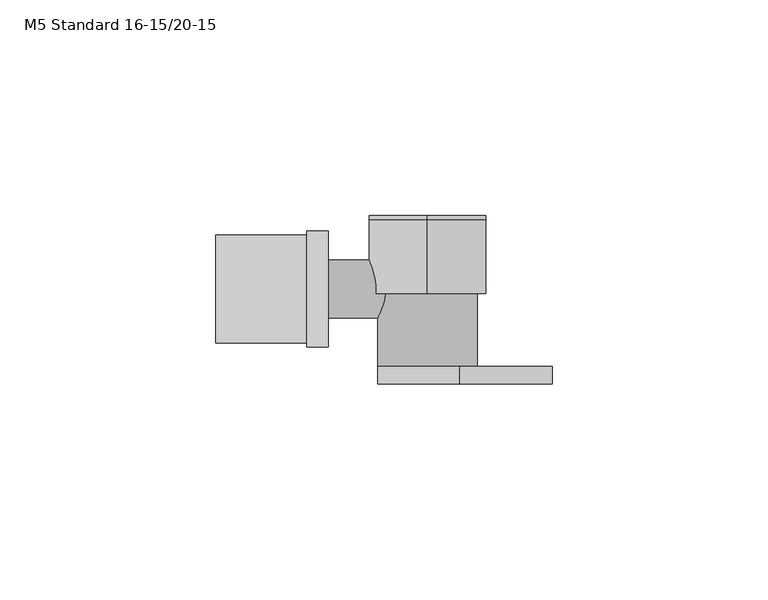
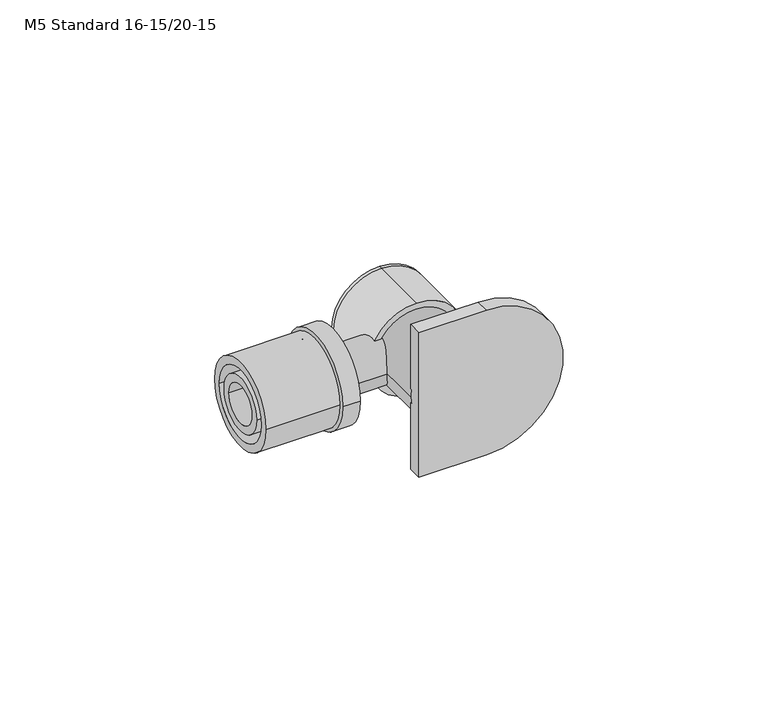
"""IFC4 building model written with IfcOpenShell, lengths in millimetres: pipe fitting geometry, PIF_Tigris_Wall_Flange_Elbow_M-K_FMT_Wavin_(nested) : M5 Standard 16-15/20-15."""

from ifc_helpers import new_model, si_unit, point, frame, origin, origin_2d, place, context, project, spatial, circle_curve, trimmed, segment, composite_curve, outline, extrude, source, transform, mapped, element, save
from ifc_brep_helpers import plane_surface, cylinder_surface, advanced_brep


def m5_standard_16_15_20_15_51ee50e7(model_context):
    return source(origin(), model_context, "Body", "SolidModel", [
        advanced_brep(
        [(11.5, 0.0, 0.0), (-11.5, 0.0, 0.0), (7.5, -22.0, -21.5), (7.5, -22.0, 21.5), (-11.5, -22.0, 21.5), (-11.5, -22.0, -21.5), (-11.5, -18.0, 0.0), (11.5, -18.0, 0.0), (7.5, -18.0, -21.5), (-11.5, -18.0, -21.5), (-11.5, -18.0, 21.5), (7.5, -18.0, 21.5)],
        [
            (0, 1, circle_curve(frame((0.0, 0.0, 0.0), z_axis=(0.0, 1.0, 0.0), x_axis=(-1.0000000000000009, 0.0, 0.0)), 11.5)),
            (1, 0, circle_curve(frame((0.0, 0.0, 0.0), z_axis=(0.0, 1.0, 0.0), x_axis=(-1.0000000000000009, 0.0, 0.0)), 11.5)),
            (2, 3, circle_curve(frame((7.5, -22.0, 0.0), z_axis=(0.0, -1.0, 0.0), x_axis=(0.0, 0.0, 1.0000000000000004)), 21.5)),
            (3, 4),
            (4, 5),
            (5, 2),
            (1, 6),
            (6, 7, circle_curve(frame((0.0, -18.0, 0.0), z_axis=(0.0, 1.0, 0.0), x_axis=(-1.0000000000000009, 0.0, 0.0)), 11.5)),
            (7, 0),
            (7, 6, circle_curve(frame((0.0, -18.0, 0.0), z_axis=(0.0, 1.0, 0.0), x_axis=(-1.0000000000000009, 0.0, 0.0)), 11.5)),
            (8, 9),
            (9, 6),
            (6, 10),
            (10, 11),
            (11, 8, circle_curve(frame((7.5, -18.0, 0.0), z_axis=(0.0, 1.0, 0.0), x_axis=(0.0, 0.0, 1.0000000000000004)), 21.5)),
            (11, 3),
            (2, 8),
            (5, 9),
            (4, 10),
        ],
        [
            plane_surface(frame((0.0, 0.0, 0.0), z_axis=(0.0, 1.0, 0.0), x_axis=(0.0, 0.0, 1.0))),
            plane_surface(frame((0.0, -22.0, 0.0), z_axis=(0.0, -1.0, 0.0), x_axis=(0.0, 0.0, 1.0))),
            cylinder_surface(frame((0.0, 0.0, 0.0), z_axis=(0.0, 1.0000000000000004, 0.0), x_axis=(-1.0000000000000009, 0.0, 0.0)), 11.5),
            plane_surface(frame((-11.5, -18.0, -21.5), z_axis=(0.0, 1.0, 0.0), x_axis=(1.0, 0.0, 0.0))),
            cylinder_surface(frame((7.5, -18.0, 0.0), z_axis=(0.0, -1.0000000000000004, 0.0), x_axis=(0.0, 0.0, 1.0000000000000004)), 21.5),
            plane_surface(frame((7.5, -22.0, -21.5), z_axis=(0.0, 0.0, -1.0), x_axis=(0.0, 1.0, 0.0))),
            plane_surface(frame((-11.5, -22.0, -21.5), z_axis=(-1.0, 0.0, 0.0), x_axis=(0.0, 1.0, 0.0))),
            plane_surface(frame((-11.5, -22.0, 21.5), z_axis=(0.0, 0.0, 1.0), x_axis=(0.0, 1.0, 0.0))),
        ],
        [
            (0, [[1, 2]]),
            (1, [[3, 4, 5, 6]]),
            (2, [[7, 8, 9, -2]]),
            (2, [[-9, 10, -7, -1]]),
            (3, [[11, 12, -10, -8, 13, 14, 15]]),
            (4, [[16, -3, 17, -15]]),
            (5, [[-17, -6, 18, -11]]),
            (6, [[19, -13, -12, -18, -5]]),
            (7, [[-19, -4, -16, -14]]),
        ],
    ),
        extrude(outline(composite_curve([segment(trimmed(circle_curve(origin_2d(), 13.5), [point((-13.5, 0.0))], [point((13.5, 0.0))], False, "CARTESIAN"), True, "CONTINUOUS"), segment(trimmed(circle_curve(origin_2d(), 13.5), [point((13.5, 0.0))], [point((-13.5, 0.0))], False, "CARTESIAN"), True, "CONTINUOUS")], self_intersect=False)), frame((0.0, -1.0, 0.0), z_axis=(0.0, 1.0, 0.0), x_axis=(0.0, 0.0, 1.0)), (0.0, 0.0, 1.0), 17.0),
        extrude(outline(composite_curve([segment(trimmed(circle_curve(origin_2d(), 13.5), [point((-13.5, 0.0))], [point((13.5, 0.0))], False, "CARTESIAN"), True, "CONTINUOUS"), segment(trimmed(circle_curve(origin_2d(), 13.5), [point((13.5, 0.0))], [point((-13.5, 0.0))], False, "CARTESIAN"), True, "CONTINUOUS")], self_intersect=False)), frame((0.0, 16.0, 0.0), z_axis=(0.0, 1.0, 0.0), x_axis=(0.0, 0.0, 1.0)), (0.0, 0.0, 1.0), 1.0),
        extrude(outline(composite_curve([segment(trimmed(circle_curve(origin_2d(), 13.45), [point((-13.45, 0.0))], [point((13.45, 0.0))], False, "CARTESIAN"), True, "CONTINUOUS"), segment(trimmed(circle_curve(origin_2d(), 13.45), [point((13.45, 0.0))], [point((-13.45, 0.0))], False, "CARTESIAN"), True, "CONTINUOUS")], self_intersect=False)), frame((-28.0, 0.0, 0.0), z_axis=(1.0, 0.0, 0.0), x_axis=(0.0, 1.0, 0.0)), (0.0, 0.0, 1.0), 5.0),
        extrude(outline(composite_curve([segment(trimmed(circle_curve(origin_2d(), 12.5), [point((-12.5, 0.0))], [point((12.5, 0.0))], False, "CARTESIAN"), True, "CONTINUOUS"), segment(trimmed(circle_curve(origin_2d(), 12.5), [point((12.5, 0.0))], [point((-12.5, 0.0))], False, "CARTESIAN"), True, "CONTINUOUS")], self_intersect=False), holes=[composite_curve([segment(trimmed(circle_curve(origin_2d(), 10.2), [point((-10.2, 0.0))], [point((10.2, 0.0))], True, "CARTESIAN"), True, "CONTINUOUS"), segment(trimmed(circle_curve(origin_2d(), 10.2), [point((10.2, 0.0))], [point((-10.2, 0.0))], True, "CARTESIAN"), True, "CONTINUOUS")], self_intersect=False)]), frame((-49.0, 0.0, 0.0), z_axis=(1.0, 0.0, 0.0), x_axis=(0.0, 1.0, 0.0)), (0.0, 0.0, 1.0), 21.0),
        extrude(outline(composite_curve([segment(trimmed(circle_curve(origin_2d(), 7.9), [point((-7.9, 0.0))], [point((7.9, 0.0))], False, "CARTESIAN"), True, "CONTINUOUS"), segment(trimmed(circle_curve(origin_2d(), 7.9), [point((7.9, 0.0))], [point((-7.9, 0.0))], False, "CARTESIAN"), True, "CONTINUOUS")], self_intersect=False), holes=[composite_curve([segment(trimmed(circle_curve(origin_2d(), 5.6), [point((-5.6, 0.0))], [point((5.6, 0.0))], True, "CARTESIAN"), True, "CONTINUOUS"), segment(trimmed(circle_curve(origin_2d(), 5.6), [point((5.6, 0.0))], [point((-5.6, 0.0))], True, "CARTESIAN"), True, "CONTINUOUS")], self_intersect=False)]), frame((-49.0, 0.0, 0.0), z_axis=(1.0, 0.0, 0.0), x_axis=(0.0, 1.0, 0.0)), (0.0, 0.0, 1.0), 26.0),
        extrude(outline(composite_curve([segment(trimmed(circle_curve(origin_2d(), 6.75), [point((0.0, 6.75))], [point((0.0, -6.75))], False, "CARTESIAN"), True, "CONTINUOUS"), segment(trimmed(circle_curve(origin_2d(), 6.75), [point((0.0, -6.75))], [point((0.0, 6.75))], False, "CARTESIAN"), True, "CONTINUOUS")], self_intersect=False)), frame((0.0, 0.0, 0.0), z_axis=(0.0, 1.0, 0.0), x_axis=(0.0, 0.0, 1.0)), (0.0, 0.0, 1.0), 6.0),
        extrude(outline(composite_curve([segment(trimmed(circle_curve(origin_2d(), 6.75), [point((-6.75, 0.0))], [point((6.75, 0.0))], False, "CARTESIAN"), True, "CONTINUOUS"), segment(trimmed(circle_curve(origin_2d(), 6.75), [point((6.75, 0.0))], [point((-6.75, 0.0))], False, "CARTESIAN"), True, "CONTINUOUS")], self_intersect=False)), frame((-23.0, 0.0, 0.0), z_axis=(1.0, 0.0, 0.0), x_axis=(0.0, 1.0, 0.0)), (0.0, 0.0, 1.0), 23.0),
    ])


if __name__ == "__main__":
    model = new_model("IFC4")
    model_context = context("Model", 3, world=origin())
    ifc_project = project(units=[si_unit("LENGTHUNIT", "METRE", prefix="MILLI")], contexts=[model_context])
    site = spatial("IfcSite", under=ifc_project)
    building = spatial("IfcBuilding", under=site)
    placement = place(None, origin())
    m5_standard_16_15_20_15_shape = m5_standard_16_15_20_15_51ee50e7(model_context)
    element("IfcPipeFitting", 1, ObjectType="PIF_Tigris_Wall_Flange_Elbow_M-K_FMT_Wavin_(nested) : M5 Standard 16-15/20-15", at=placement, inside=building, context=model_context, shape_type="MappedRepresentation", body=[
        mapped(m5_standard_16_15_20_15_shape, transform((0.0, 0.0, 0.0), x_axis=(1.0, 0.0, 0.0), y_axis=(0.0, 1.0, 0.0), z_axis=(0.0, 0.0, 1.0))),
    ])
    save(model, "model.ifc")
